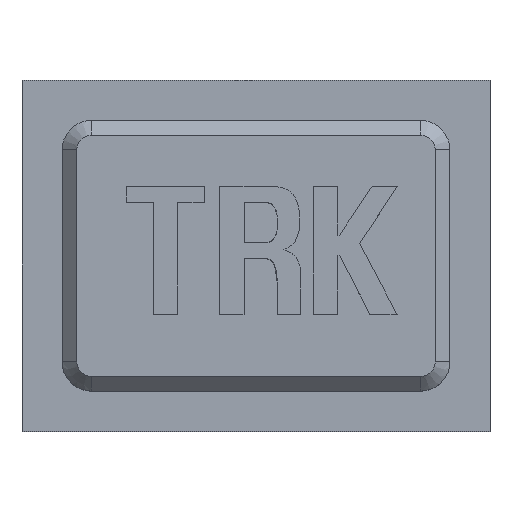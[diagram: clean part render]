
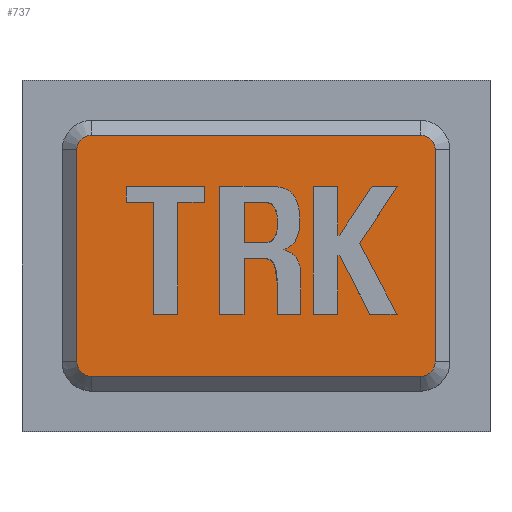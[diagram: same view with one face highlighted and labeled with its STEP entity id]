
A CAD part, top view. The second image highlights one B-rep face of the part: STEP entity #737.
In plain terms, the highlighted planar face has unit normal (0, 0, 1).
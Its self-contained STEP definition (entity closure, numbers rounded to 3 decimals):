
#72 = PLANE('',#73);
#73 = AXIS2_PLACEMENT_3D('',#74,#75,#76);
#74 = CARTESIAN_POINT('',(2.375,1.625,4.25));
#75 = DIRECTION('',(0.,0.707,-0.707));
#76 = DIRECTION('',(-1.,-0.,-0.));
#213 = CONICAL_SURFACE('',#214,1.,0.785);
#214 = AXIS2_PLACEMENT_3D('',#215,#216,#217);
#215 = CARTESIAN_POINT('',(2.375,2.375,4.));
#216 = DIRECTION('',(-0.,-0.,-1.));
#217 = DIRECTION('',(-1.,0.,0.));
#229 = VERTEX_POINT('',#230);
#230 = CARTESIAN_POINT('',(2.375,1.875,4.5));
#253 = VERTEX_POINT('',#254);
#254 = CARTESIAN_POINT('',(13.625,1.875,4.5));
#268 = CONICAL_SURFACE('',#269,1.,0.785);
#269 = AXIS2_PLACEMENT_3D('',#270,#271,#272);
#270 = CARTESIAN_POINT('',(13.625,2.375,4.));
#271 = DIRECTION('',(-0.,-0.,-1.));
#272 = DIRECTION('',(0.,-1.,0.));
#280 = EDGE_CURVE('',#229,#253,#281,.T.);
#281 = SURFACE_CURVE('',#282,(#286,#293),.PCURVE_S1.);
#282 = LINE('',#283,#284);
#283 = CARTESIAN_POINT('',(2.375,1.875,4.5));
#284 = VECTOR('',#285,1.);
#285 = DIRECTION('',(1.,0.,0.));
#286 = PCURVE('',#72,#287);
#287 = DEFINITIONAL_REPRESENTATION('',(#288),#292);
#288 = LINE('',#289,#290);
#289 = CARTESIAN_POINT('',(-0.,0.354));
#290 = VECTOR('',#291,1.);
#291 = DIRECTION('',(-1.,0.));
#292 = ( GEOMETRIC_REPRESENTATION_CONTEXT(2) 
PARAMETRIC_REPRESENTATION_CONTEXT() REPRESENTATION_CONTEXT('2D SPACE',''
  ) );
#293 = PCURVE('',#294,#299);
#294 = PLANE('',#295);
#295 = AXIS2_PLACEMENT_3D('',#296,#297,#298);
#296 = CARTESIAN_POINT('',(8.,6.,4.5));
#297 = DIRECTION('',(0.,0.,1.));
#298 = DIRECTION('',(1.,0.,0.));
#299 = DEFINITIONAL_REPRESENTATION('',(#300),#304);
#300 = LINE('',#301,#302);
#301 = CARTESIAN_POINT('',(-5.625,-4.125));
#302 = VECTOR('',#303,1.);
#303 = DIRECTION('',(1.,0.));
#304 = ( GEOMETRIC_REPRESENTATION_CONTEXT(2) 
PARAMETRIC_REPRESENTATION_CONTEXT() REPRESENTATION_CONTEXT('2D SPACE',''
  ) );
#638 = VERTEX_POINT('',#639);
#639 = CARTESIAN_POINT('',(1.875,2.375,4.5));
#653 = PLANE('',#654);
#654 = AXIS2_PLACEMENT_3D('',#655,#656,#657);
#655 = CARTESIAN_POINT('',(1.625,9.625,4.25));
#656 = DIRECTION('',(0.707,0.,-0.707));
#657 = DIRECTION('',(0.,1.,0.));
#667 = EDGE_CURVE('',#638,#229,#668,.T.);
#668 = SURFACE_CURVE('',#669,(#674,#681),.PCURVE_S1.);
#669 = CIRCLE('',#670,0.5);
#670 = AXIS2_PLACEMENT_3D('',#671,#672,#673);
#671 = CARTESIAN_POINT('',(2.375,2.375,4.5));
#672 = DIRECTION('',(0.,0.,1.));
#673 = DIRECTION('',(-1.,0.,0.));
#674 = PCURVE('',#213,#675);
#675 = DEFINITIONAL_REPRESENTATION('',(#676),#680);
#676 = LINE('',#677,#678);
#677 = CARTESIAN_POINT('',(-0.,-0.5));
#678 = VECTOR('',#679,1.);
#679 = DIRECTION('',(-1.,-0.));
#680 = ( GEOMETRIC_REPRESENTATION_CONTEXT(2) 
PARAMETRIC_REPRESENTATION_CONTEXT() REPRESENTATION_CONTEXT('2D SPACE',''
  ) );
#681 = PCURVE('',#294,#682);
#682 = DEFINITIONAL_REPRESENTATION('',(#683),#687);
#683 = CIRCLE('',#684,0.5);
#684 = AXIS2_PLACEMENT_2D('',#685,#686);
#685 = CARTESIAN_POINT('',(-5.625,-3.625));
#686 = DIRECTION('',(-1.,0.));
#687 = ( GEOMETRIC_REPRESENTATION_CONTEXT(2) 
PARAMETRIC_REPRESENTATION_CONTEXT() REPRESENTATION_CONTEXT('2D SPACE',''
  ) );
#737 = ADVANCED_FACE('',(#738),#294,.T.);
#738 = FACE_BOUND('',#739,.T.);
#739 = EDGE_LOOP('',(#740,#770,#799,#820,#821,#822,#846,#874));
#740 = ORIENTED_EDGE('',*,*,#741,.T.);
#741 = EDGE_CURVE('',#742,#744,#746,.T.);
#742 = VERTEX_POINT('',#743);
#743 = CARTESIAN_POINT('',(13.625,10.125,4.5));
#744 = VERTEX_POINT('',#745);
#745 = CARTESIAN_POINT('',(2.375,10.125,4.5));
#746 = SURFACE_CURVE('',#747,(#751,#758),.PCURVE_S1.);
#747 = LINE('',#748,#749);
#748 = CARTESIAN_POINT('',(13.625,10.125,4.5));
#749 = VECTOR('',#750,1.);
#750 = DIRECTION('',(-1.,0.,0.));
#751 = PCURVE('',#294,#752);
#752 = DEFINITIONAL_REPRESENTATION('',(#753),#757);
#753 = LINE('',#754,#755);
#754 = CARTESIAN_POINT('',(5.625,4.125));
#755 = VECTOR('',#756,1.);
#756 = DIRECTION('',(-1.,0.));
#757 = ( GEOMETRIC_REPRESENTATION_CONTEXT(2) 
PARAMETRIC_REPRESENTATION_CONTEXT() REPRESENTATION_CONTEXT('2D SPACE',''
  ) );
#758 = PCURVE('',#759,#764);
#759 = PLANE('',#760);
#760 = AXIS2_PLACEMENT_3D('',#761,#762,#763);
#761 = CARTESIAN_POINT('',(13.625,10.375,4.25));
#762 = DIRECTION('',(0.,-0.707,-0.707));
#763 = DIRECTION('',(1.,0.,0.));
#764 = DEFINITIONAL_REPRESENTATION('',(#765),#769);
#765 = LINE('',#766,#767);
#766 = CARTESIAN_POINT('',(-0.,0.354));
#767 = VECTOR('',#768,1.);
#768 = DIRECTION('',(-1.,0.));
#769 = ( GEOMETRIC_REPRESENTATION_CONTEXT(2) 
PARAMETRIC_REPRESENTATION_CONTEXT() REPRESENTATION_CONTEXT('2D SPACE',''
  ) );
#770 = ORIENTED_EDGE('',*,*,#771,.T.);
#771 = EDGE_CURVE('',#744,#772,#774,.T.);
#772 = VERTEX_POINT('',#773);
#773 = CARTESIAN_POINT('',(1.875,9.625,4.5));
#774 = SURFACE_CURVE('',#775,(#780,#787),.PCURVE_S1.);
#775 = CIRCLE('',#776,0.5);
#776 = AXIS2_PLACEMENT_3D('',#777,#778,#779);
#777 = CARTESIAN_POINT('',(2.375,9.625,4.5));
#778 = DIRECTION('',(0.,-0.,1.));
#779 = DIRECTION('',(0.,1.,0.));
#780 = PCURVE('',#294,#781);
#781 = DEFINITIONAL_REPRESENTATION('',(#782),#786);
#782 = CIRCLE('',#783,0.5);
#783 = AXIS2_PLACEMENT_2D('',#784,#785);
#784 = CARTESIAN_POINT('',(-5.625,3.625));
#785 = DIRECTION('',(0.,1.));
#786 = ( GEOMETRIC_REPRESENTATION_CONTEXT(2) 
PARAMETRIC_REPRESENTATION_CONTEXT() REPRESENTATION_CONTEXT('2D SPACE',''
  ) );
#787 = PCURVE('',#788,#793);
#788 = CONICAL_SURFACE('',#789,1.,0.785);
#789 = AXIS2_PLACEMENT_3D('',#790,#791,#792);
#790 = CARTESIAN_POINT('',(2.375,9.625,4.));
#791 = DIRECTION('',(-0.,-0.,-1.));
#792 = DIRECTION('',(0.,1.,0.));
#793 = DEFINITIONAL_REPRESENTATION('',(#794),#798);
#794 = LINE('',#795,#796);
#795 = CARTESIAN_POINT('',(-0.,-0.5));
#796 = VECTOR('',#797,1.);
#797 = DIRECTION('',(-1.,-0.));
#798 = ( GEOMETRIC_REPRESENTATION_CONTEXT(2) 
PARAMETRIC_REPRESENTATION_CONTEXT() REPRESENTATION_CONTEXT('2D SPACE',''
  ) );
#799 = ORIENTED_EDGE('',*,*,#800,.T.);
#800 = EDGE_CURVE('',#772,#638,#801,.T.);
#801 = SURFACE_CURVE('',#802,(#806,#813),.PCURVE_S1.);
#802 = LINE('',#803,#804);
#803 = CARTESIAN_POINT('',(1.875,9.625,4.5));
#804 = VECTOR('',#805,1.);
#805 = DIRECTION('',(0.,-1.,0.));
#806 = PCURVE('',#294,#807);
#807 = DEFINITIONAL_REPRESENTATION('',(#808),#812);
#808 = LINE('',#809,#810);
#809 = CARTESIAN_POINT('',(-6.125,3.625));
#810 = VECTOR('',#811,1.);
#811 = DIRECTION('',(0.,-1.));
#812 = ( GEOMETRIC_REPRESENTATION_CONTEXT(2) 
PARAMETRIC_REPRESENTATION_CONTEXT() REPRESENTATION_CONTEXT('2D SPACE',''
  ) );
#813 = PCURVE('',#653,#814);
#814 = DEFINITIONAL_REPRESENTATION('',(#815),#819);
#815 = LINE('',#816,#817);
#816 = CARTESIAN_POINT('',(-0.,0.354));
#817 = VECTOR('',#818,1.);
#818 = DIRECTION('',(-1.,0.));
#819 = ( GEOMETRIC_REPRESENTATION_CONTEXT(2) 
PARAMETRIC_REPRESENTATION_CONTEXT() REPRESENTATION_CONTEXT('2D SPACE',''
  ) );
#820 = ORIENTED_EDGE('',*,*,#667,.T.);
#821 = ORIENTED_EDGE('',*,*,#280,.T.);
#822 = ORIENTED_EDGE('',*,*,#823,.T.);
#823 = EDGE_CURVE('',#253,#824,#826,.T.);
#824 = VERTEX_POINT('',#825);
#825 = CARTESIAN_POINT('',(14.125,2.375,4.5));
#826 = SURFACE_CURVE('',#827,(#832,#839),.PCURVE_S1.);
#827 = CIRCLE('',#828,0.5);
#828 = AXIS2_PLACEMENT_3D('',#829,#830,#831);
#829 = CARTESIAN_POINT('',(13.625,2.375,4.5));
#830 = DIRECTION('',(-0.,0.,1.));
#831 = DIRECTION('',(0.,-1.,0.));
#832 = PCURVE('',#294,#833);
#833 = DEFINITIONAL_REPRESENTATION('',(#834),#838);
#834 = CIRCLE('',#835,0.5);
#835 = AXIS2_PLACEMENT_2D('',#836,#837);
#836 = CARTESIAN_POINT('',(5.625,-3.625));
#837 = DIRECTION('',(0.,-1.));
#838 = ( GEOMETRIC_REPRESENTATION_CONTEXT(2) 
PARAMETRIC_REPRESENTATION_CONTEXT() REPRESENTATION_CONTEXT('2D SPACE',''
  ) );
#839 = PCURVE('',#268,#840);
#840 = DEFINITIONAL_REPRESENTATION('',(#841),#845);
#841 = LINE('',#842,#843);
#842 = CARTESIAN_POINT('',(-0.,-0.5));
#843 = VECTOR('',#844,1.);
#844 = DIRECTION('',(-1.,-0.));
#845 = ( GEOMETRIC_REPRESENTATION_CONTEXT(2) 
PARAMETRIC_REPRESENTATION_CONTEXT() REPRESENTATION_CONTEXT('2D SPACE',''
  ) );
#846 = ORIENTED_EDGE('',*,*,#847,.T.);
#847 = EDGE_CURVE('',#824,#848,#850,.T.);
#848 = VERTEX_POINT('',#849);
#849 = CARTESIAN_POINT('',(14.125,9.625,4.5));
#850 = SURFACE_CURVE('',#851,(#855,#862),.PCURVE_S1.);
#851 = LINE('',#852,#853);
#852 = CARTESIAN_POINT('',(14.125,2.375,4.5));
#853 = VECTOR('',#854,1.);
#854 = DIRECTION('',(0.,1.,0.));
#855 = PCURVE('',#294,#856);
#856 = DEFINITIONAL_REPRESENTATION('',(#857),#861);
#857 = LINE('',#858,#859);
#858 = CARTESIAN_POINT('',(6.125,-3.625));
#859 = VECTOR('',#860,1.);
#860 = DIRECTION('',(0.,1.));
#861 = ( GEOMETRIC_REPRESENTATION_CONTEXT(2) 
PARAMETRIC_REPRESENTATION_CONTEXT() REPRESENTATION_CONTEXT('2D SPACE',''
  ) );
#862 = PCURVE('',#863,#868);
#863 = PLANE('',#864);
#864 = AXIS2_PLACEMENT_3D('',#865,#866,#867);
#865 = CARTESIAN_POINT('',(14.375,2.375,4.25));
#866 = DIRECTION('',(-0.707,0.,-0.707));
#867 = DIRECTION('',(-0.,-1.,-0.));
#868 = DEFINITIONAL_REPRESENTATION('',(#869),#873);
#869 = LINE('',#870,#871);
#870 = CARTESIAN_POINT('',(-0.,0.354));
#871 = VECTOR('',#872,1.);
#872 = DIRECTION('',(-1.,0.));
#873 = ( GEOMETRIC_REPRESENTATION_CONTEXT(2) 
PARAMETRIC_REPRESENTATION_CONTEXT() REPRESENTATION_CONTEXT('2D SPACE',''
  ) );
#874 = ORIENTED_EDGE('',*,*,#875,.T.);
#875 = EDGE_CURVE('',#848,#742,#876,.T.);
#876 = SURFACE_CURVE('',#877,(#882,#889),.PCURVE_S1.);
#877 = CIRCLE('',#878,0.5);
#878 = AXIS2_PLACEMENT_3D('',#879,#880,#881);
#879 = CARTESIAN_POINT('',(13.625,9.625,4.5));
#880 = DIRECTION('',(0.,0.,1.));
#881 = DIRECTION('',(1.,0.,0.));
#882 = PCURVE('',#294,#883);
#883 = DEFINITIONAL_REPRESENTATION('',(#884),#888);
#884 = CIRCLE('',#885,0.5);
#885 = AXIS2_PLACEMENT_2D('',#886,#887);
#886 = CARTESIAN_POINT('',(5.625,3.625));
#887 = DIRECTION('',(1.,0.));
#888 = ( GEOMETRIC_REPRESENTATION_CONTEXT(2) 
PARAMETRIC_REPRESENTATION_CONTEXT() REPRESENTATION_CONTEXT('2D SPACE',''
  ) );
#889 = PCURVE('',#890,#895);
#890 = CONICAL_SURFACE('',#891,1.,0.785);
#891 = AXIS2_PLACEMENT_3D('',#892,#893,#894);
#892 = CARTESIAN_POINT('',(13.625,9.625,4.));
#893 = DIRECTION('',(-0.,-0.,-1.));
#894 = DIRECTION('',(1.,0.,0.));
#895 = DEFINITIONAL_REPRESENTATION('',(#896),#900);
#896 = LINE('',#897,#898);
#897 = CARTESIAN_POINT('',(-0.,-0.5));
#898 = VECTOR('',#899,1.);
#899 = DIRECTION('',(-1.,-0.));
#900 = ( GEOMETRIC_REPRESENTATION_CONTEXT(2) 
PARAMETRIC_REPRESENTATION_CONTEXT() REPRESENTATION_CONTEXT('2D SPACE',''
  ) );
